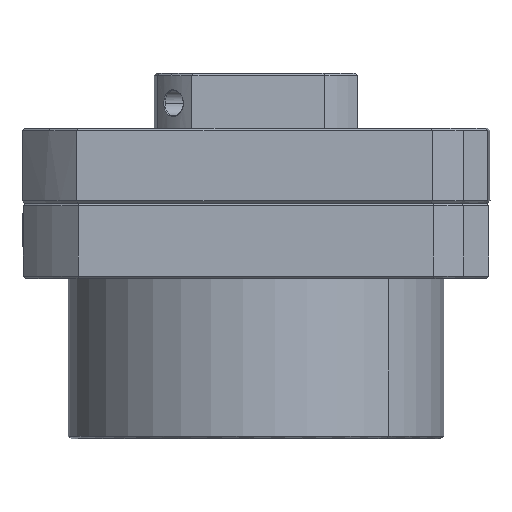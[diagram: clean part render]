
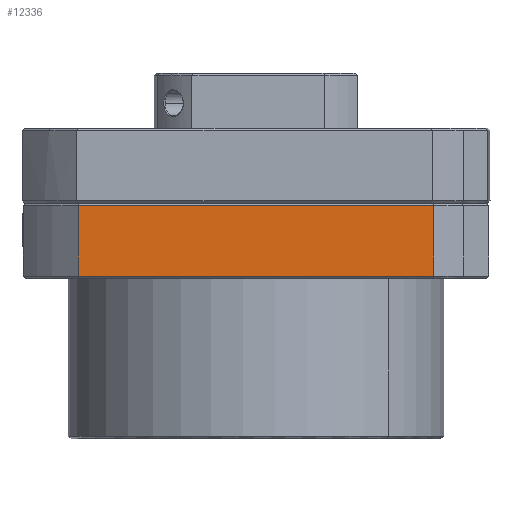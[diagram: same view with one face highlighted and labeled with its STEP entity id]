
A CAD part, left-side view. The second image highlights one B-rep face of the part: STEP entity #12336.
In plain terms, the highlighted planar face has unit normal (-1, 0, 0).
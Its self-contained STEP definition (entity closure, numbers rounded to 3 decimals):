
#328 = CARTESIAN_POINT ( 'NONE',  ( -52.308, 40.654, 9. ) ) ;
#361 = CARTESIAN_POINT ( 'NONE',  ( -52.308, 40.654, 9. ) ) ;
#772 = PLANE ( 'NONE',  #9874 ) ;
#1043 = CARTESIAN_POINT ( 'NONE',  ( -52.308, -30.339, 9. ) ) ;
#2125 = VERTEX_POINT ( 'NONE', #8490 ) ;
#2686 = CARTESIAN_POINT ( 'NONE',  ( -52.308, -30.339, 9. ) ) ;
#2801 = EDGE_LOOP ( 'NONE', ( #13462, #13052, #7989, #11633 ) ) ;
#3268 = DIRECTION ( 'NONE',  ( 1., 0., 0. ) ) ;
#3399 = VERTEX_POINT ( 'NONE', #10407 ) ;
#3589 = CARTESIAN_POINT ( 'NONE',  ( -52.308, -30.339, 23. ) ) ;
#3958 = CARTESIAN_POINT ( 'NONE',  ( -52.308, 40.654, 13.667 ) ) ;
#4428 = EDGE_CURVE ( 'NONE', #14427, #15338, #13218, .T. ) ;
#4693 = B_SPLINE_CURVE_WITH_KNOTS ( 'NONE', 3,
 ( #2686, #12354, #7417, #328 ),
 .UNSPECIFIED., .F., .F.,
 ( 4, 4 ),
 ( 0., 1. ),
 .UNSPECIFIED. ) ;
#4956 = EDGE_CURVE ( 'NONE', #15338, #2125, #12849, .T. ) ;
#5015 = CARTESIAN_POINT ( 'NONE',  ( -52.308, 40.654, 23. ) ) ;
#5286 = B_SPLINE_CURVE_WITH_KNOTS ( 'NONE', 3,
 ( #3589, #14532, #10750, #1043 ),
 .UNSPECIFIED., .F., .F.,
 ( 4, 4 ),
 ( 0., 1. ),
 .UNSPECIFIED. ) ;
#5412 = CARTESIAN_POINT ( 'NONE',  ( -52.308, 40.654, 23. ) ) ;
#7417 = CARTESIAN_POINT ( 'NONE',  ( -52.308, 16.99, 9. ) ) ;
#7861 = FACE_OUTER_BOUND ( 'NONE', #2801, .T. ) ;
#7935 = CARTESIAN_POINT ( 'NONE',  ( -52.308, -30.339, 9. ) ) ;
#7989 = ORIENTED_EDGE ( 'NONE', *, *, #12816, .F. ) ;
#8128 = CARTESIAN_POINT ( 'NONE',  ( -52.308, 16.99, 23. ) ) ;
#8490 = CARTESIAN_POINT ( 'NONE',  ( -52.308, -30.339, 23. ) ) ;
#9874 = AXIS2_PLACEMENT_3D ( 'NONE', #7935, #3268, #15302 ) ;
#10407 = CARTESIAN_POINT ( 'NONE',  ( -52.308, -30.339, 9. ) ) ;
#10750 = CARTESIAN_POINT ( 'NONE',  ( -52.308, -30.339, 13.667 ) ) ;
#11099 = CARTESIAN_POINT ( 'NONE',  ( -52.308, 40.654, 18.333 ) ) ;
#11283 = CARTESIAN_POINT ( 'NONE',  ( -52.308, 40.654, 9. ) ) ;
#11366 = EDGE_CURVE ( 'NONE', #3399, #14427, #4693, .T. ) ;
#11633 = ORIENTED_EDGE ( 'NONE', *, *, #4956, .F. ) ;
#12336 = ADVANCED_FACE ( 'NONE', ( #7861 ), #772, .F. ) ;
#12354 = CARTESIAN_POINT ( 'NONE',  ( -52.308, -6.675, 9. ) ) ;
#12816 = EDGE_CURVE ( 'NONE', #2125, #3399, #5286, .T. ) ;
#12849 = B_SPLINE_CURVE_WITH_KNOTS ( 'NONE', 3,
 ( #5412, #8128, #13990, #12960 ),
 .UNSPECIFIED., .F., .F.,
 ( 4, 4 ),
 ( 0., 1. ),
 .UNSPECIFIED. ) ;
#12960 = CARTESIAN_POINT ( 'NONE',  ( -52.308, -30.339, 23. ) ) ;
#13052 = ORIENTED_EDGE ( 'NONE', *, *, #11366, .F. ) ;
#13218 = B_SPLINE_CURVE_WITH_KNOTS ( 'NONE', 3,
 ( #361, #3958, #11099, #13405 ),
 .UNSPECIFIED., .F., .F.,
 ( 4, 4 ),
 ( 0., 1. ),
 .UNSPECIFIED. ) ;
#13405 = CARTESIAN_POINT ( 'NONE',  ( -52.308, 40.654, 23. ) ) ;
#13462 = ORIENTED_EDGE ( 'NONE', *, *, #4428, .F. ) ;
#13990 = CARTESIAN_POINT ( 'NONE',  ( -52.308, -6.675, 23. ) ) ;
#14427 = VERTEX_POINT ( 'NONE', #11283 ) ;
#14532 = CARTESIAN_POINT ( 'NONE',  ( -52.308, -30.339, 18.333 ) ) ;
#15302 = DIRECTION ( 'NONE',  ( 0., 1., 0. ) ) ;
#15338 = VERTEX_POINT ( 'NONE', #5015 ) ;
